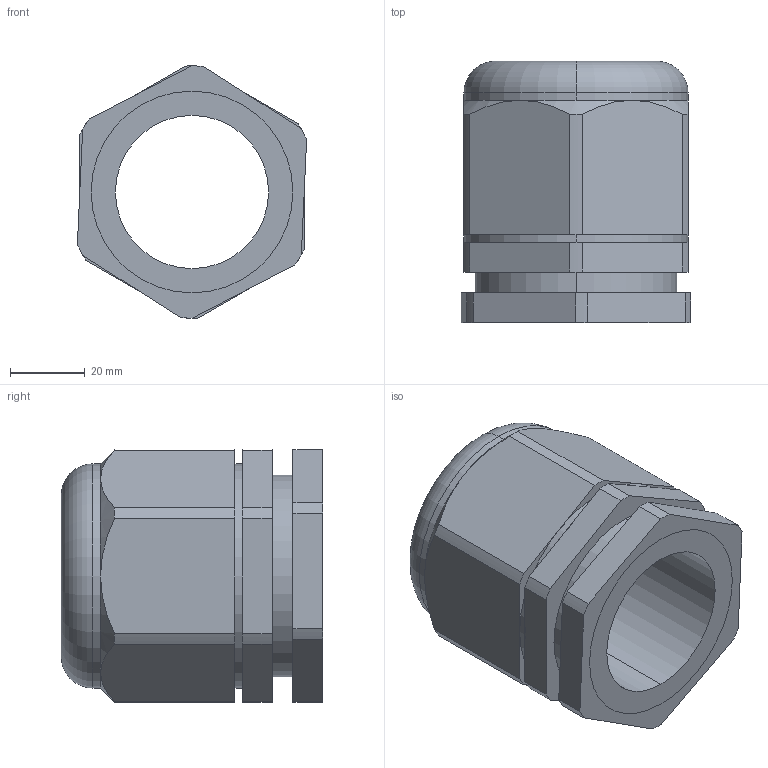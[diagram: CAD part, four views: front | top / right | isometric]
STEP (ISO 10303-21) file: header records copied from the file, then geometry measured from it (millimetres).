
FILE_DESCRIPTION (( 'STEP AP214' ), '1' );
FILE_NAME ('Ñàëüíèê PG42-(Dïðîâîäíèêà 30-40ìì)-IP54.STEP', '2023-02-20T06:49:37', ( '' ), ( '' ), 'SwSTEP 2.0', 'SolidWorks 2018', '' );
FILE_SCHEMA (( 'AUTOMOTIVE_DESIGN' ));
Length unit declared in the file: millimetre
Products named in the file (3): Ñàëüíèê PG42-(Dïðîâîäíèêà 30-40ìì)-IP54 äåòàëü; Ñàëüíèê PG42-(Dïðîâîäíèêà 30-40ìì)-IP54; Ñàëüíèê PG42-(Dïðîâîäíèêà 30-40ìì)-IP54 ãàéêà
Assembly tree (2 placements, depth 2):
  Ñàëüíèê PG42-(Dïðîâîäíèêà 30-40ìì)-IP54
    Ñàëüíèê PG42-(Dïðîâîäíèêà 30-40ìì)-IP54 äåòàëü
    Ñàëüíèê PG42-(Dïðîâîäíèêà 30-40ìì)-IP54 ãàéêà
Bounding box: 61.36 x 70 x 67.5 mm (x, y, z)
Volume: 114090.7 mm3; surface area: 30539.4 mm2
Topology: 2 solids, 2 shells, 75 faces, 188 edges, 118 vertices
Faces by surface type: plane 35, cylinder 31, cone 7, torus 2
Entity records: 2460 total; most frequent: CARTESIAN_POINT 502, DIRECTION 420, ORIENTED_EDGE 376, EDGE_CURVE 188, AXIS2_PLACEMENT_3D 164, VERTEX_POINT 118, LINE 92, VECTOR 92
